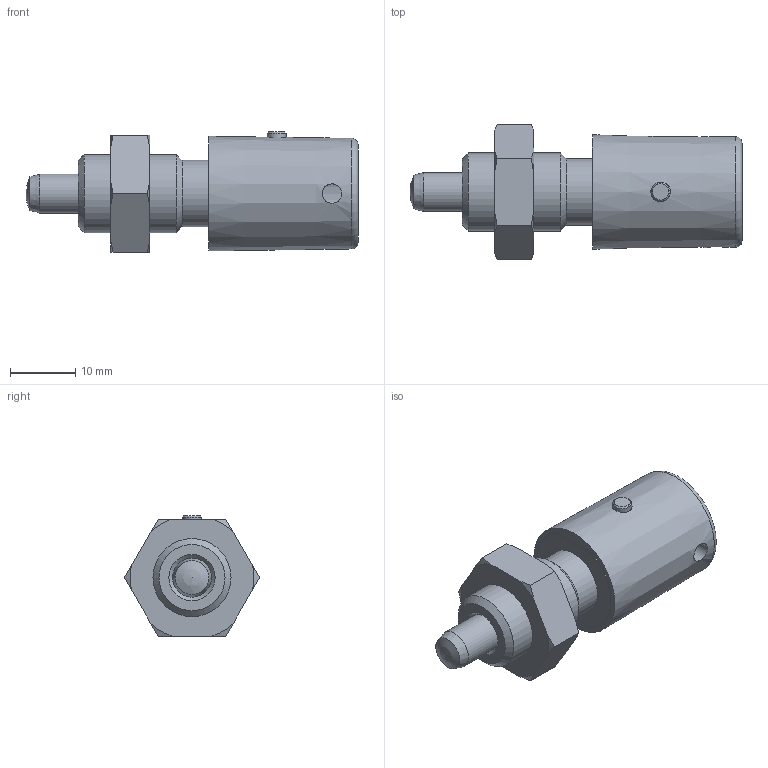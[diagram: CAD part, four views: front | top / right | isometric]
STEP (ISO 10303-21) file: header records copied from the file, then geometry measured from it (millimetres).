
FILE_DESCRIPTION( ( 'STEP AP203' ), '1' );
FILE_NAME( 'C:/Temp/Ganter_Step_05_03_2020/data/3_1/gn816_1/gn_816_1_bk/Locking plunger GN 816.1-6-M12x1,5-BK (activated).stp', '2020-03-12T08:56:21', ( 'License CC BY-ND 4.0' ), ( 'CADENAS' ), ' ', 'PARTsolutions', ' ' );
FILE_SCHEMA( ( 'CONFIG_CONTROL_DESIGN' ) );
Length unit declared in the file: millimetre
Products named in the file (4): Locking plunger GN 816.1-6-M12x1,5-BK (activated); _GN 816.1-6-M12x1,5-B(1)-b2; _GN 816.1-6-M12x1,5-Bb1; _Lock nut ISO 8675 GN 816-6-M12x1,5-AK
Assembly tree (3 placements, depth 2):
  Locking plunger GN 816.1-6-M12x1,5-BK (activated)
    _GN 816.1-6-M12x1,5-B(1)-b2
    _GN 816.1-6-M12x1,5-Bb1
    _Lock nut ISO 8675 GN 816-6-M12x1,5-AK
Bounding box: 51 x 20.78 x 18.5 mm (x, y, z)
Volume: 7250.7 mm3; surface area: 5555.9 mm2
Topology: 3 solids, 3 shells, 64 faces, 140 edges, 89 vertices
Faces by surface type: cone 25, plane 21, cylinder 15, torus 2, sphere 1
Full cylindrical faces by diameter (mm): 2.9 x2, 3 x2, 6 x2, 7 x1, 8 x1, 8.1 x1, 10.2 x1, 10.376 x1, 11.1 x1, 12 x1
Entity records: 2043 total; most frequent: CARTESIAN_POINT 637, DIRECTION 264, ORIENTED_EDGE 214, AXIS2_PLACEMENT_3D 119, EDGE_LOOP 108, EDGE_CURVE 107, VERTEX_POINT 86, FACE_OUTER_BOUND 79
